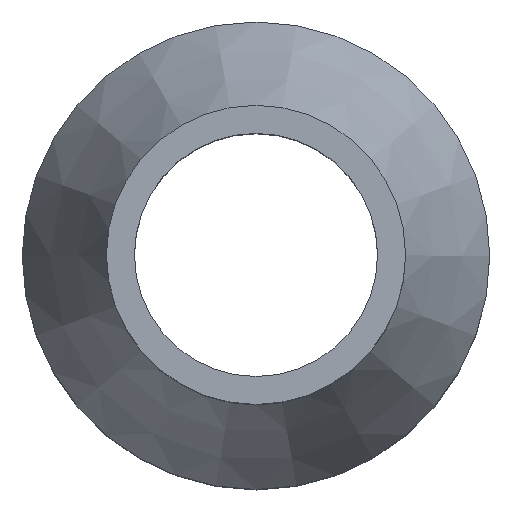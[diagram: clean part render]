
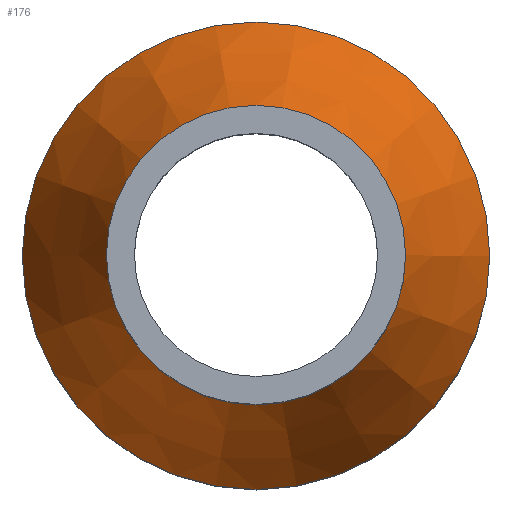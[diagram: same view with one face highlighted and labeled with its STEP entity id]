
A CAD part, top view. The second image highlights one B-rep face of the part: STEP entity #176.
In plain terms, the highlighted conical face has half-angle 24.228 degrees and reference radius 25 mm.
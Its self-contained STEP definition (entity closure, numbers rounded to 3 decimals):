
#29=FACE_BOUND($,#67,.T.);
#45=FACE_OUTER_BOUND($,#66,.T.);
#66=EDGE_LOOP($,(#136));
#67=EDGE_LOOP($,(#137));
#83=CIRCLE($,#197,25.);
#88=CIRCLE($,#206,16.);
#97=VERTEX_POINT($,#291);
#102=VERTEX_POINT($,#305);
#111=EDGE_CURVE($,#97,#97,#83,.T.);
#116=EDGE_CURVE($,#102,#102,#88,.T.);
#136=ORIENTED_EDGE($,*,*,#111,.F.);
#137=ORIENTED_EDGE($,*,*,#116,.F.);
#151=CONICAL_SURFACE($,#205,25.,24.228);
#176=ADVANCED_FACE($,(#45,#29),#151,.T.);
#197=AXIS2_PLACEMENT_3D($,#292,#240,#241);
#205=AXIS2_PLACEMENT_3D($,#304,#256,#257);
#206=AXIS2_PLACEMENT_3D($,#306,#258,#259);
#240=DIRECTION('center_axis',(0.,0.,-1.));
#241=DIRECTION('ref_axis',(-1.,0.,0.));
#256=DIRECTION('center_axis',(0.,0.,-1.));
#257=DIRECTION('ref_axis',(1.,0.,0.));
#258=DIRECTION('center_axis',(0.,0.,1.));
#259=DIRECTION('ref_axis',(-1.,0.,0.));
#291=CARTESIAN_POINT('',(25.,0.,30.));
#292=CARTESIAN_POINT('Origin',(0.,0.,30.));
#304=CARTESIAN_POINT('Origin',(0.,0.,30.));
#305=CARTESIAN_POINT('',(16.,0.,50.));
#306=CARTESIAN_POINT('Origin',(0.,0.,50.));
